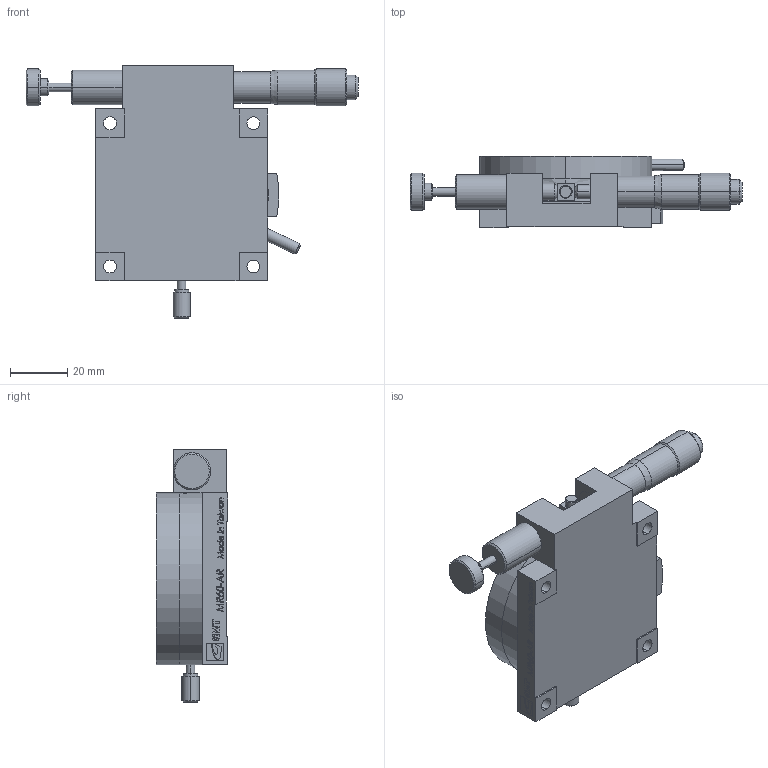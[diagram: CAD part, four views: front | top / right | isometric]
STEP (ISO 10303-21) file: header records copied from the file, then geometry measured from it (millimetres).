
FILE_DESCRIPTION (( 'STEP AP203' ), '1' );
FILE_NAME ('MR60-AR.STEP', '2008-07-19T02:58:32', ( '陳志豪' ), ( '高明鐵企業股份有限公司' ), 'SwSTEP 2.0', 'SolidWorks 2007', '' );
FILE_SCHEMA (( 'CONFIG_CONTROL_DESIGN' ));
Length unit declared in the file: millimetre
Products named in the file (1): MR60-AR
Bounding box: 115.8 x 25 x 88 mm (x, y, z)
Volume: 89957.4 mm3; surface area: 27528.7 mm2
Topology: 4 solids, 4 shells, 557 faces, 1438 edges, 925 vertices
Faces by surface type: plane 279, cylinder 128, bspline 93, cone 57
Entity records: 21856 total; most frequent: CARTESIAN_POINT 8678, ORIENTED_EDGE 2824, DIRECTION 2451, EDGE_CURVE 1412, VERTEX_POINT 925, LINE 915, VECTOR 915, AXIS2_PLACEMENT_3D 768
